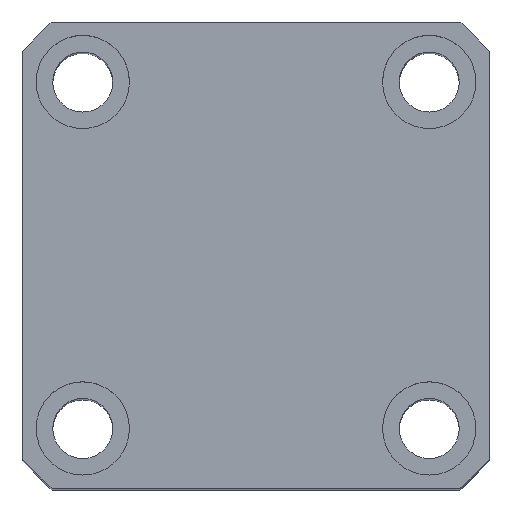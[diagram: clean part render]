
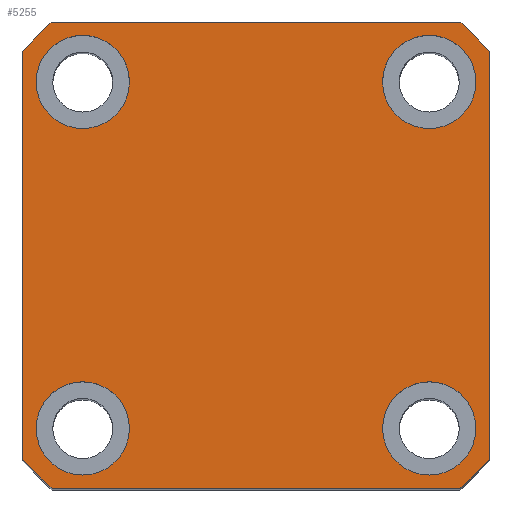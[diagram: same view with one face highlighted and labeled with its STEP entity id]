
A CAD part, top view. The second image highlights one B-rep face of the part: STEP entity #5255.
In plain terms, the highlighted planar face has unit normal (0, 0, 1).
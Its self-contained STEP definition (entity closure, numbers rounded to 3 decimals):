
#8 = DIRECTION ( 'NONE',  ( 0., 0., 1. ) ) ;
#94 = FACE_BOUND ( 'NONE', #9515, .T. ) ;
#296 = AXIS2_PLACEMENT_3D ( 'NONE', #3141, #8555, #3925 ) ;
#335 = CARTESIAN_POINT ( 'NONE',  ( 26., 26., 140. ) ) ;
#416 = ORIENTED_EDGE ( 'NONE', *, *, #7192, .F. ) ;
#511 = LINE ( 'NONE', #3499, #5945 ) ;
#540 = DIRECTION ( 'NONE',  ( 1., 0., 0. ) ) ;
#555 = CARTESIAN_POINT ( 'NONE',  ( 33., 26., 140. ) ) ;
#558 = VERTEX_POINT ( 'NONE', #3839 ) ;
#618 = AXIS2_PLACEMENT_3D ( 'NONE', #1310, #6709, #2084 ) ;
#638 = DIRECTION ( 'NONE',  ( 1., 0., 0. ) ) ;
#690 = DIRECTION ( 'NONE',  ( 0., 0., 1. ) ) ;
#814 = CIRCLE ( 'NONE', #296, 7. ) ;
#941 = ORIENTED_EDGE ( 'NONE', *, *, #3029, .T. ) ;
#1015 = ORIENTED_EDGE ( 'NONE', *, *, #8206, .F. ) ;
#1069 = CIRCLE ( 'NONE', #8575, 7. ) ;
#1107 = DIRECTION ( 'NONE',  ( 1., 0., 0. ) ) ;
#1215 = EDGE_CURVE ( 'NONE', #2295, #3341, #5874, .T. ) ;
#1239 = ORIENTED_EDGE ( 'NONE', *, *, #4479, .F. ) ;
#1246 = EDGE_LOOP ( 'NONE', ( #8150, #2121 ) ) ;
#1250 = ORIENTED_EDGE ( 'NONE', *, *, #8084, .F. ) ;
#1310 = CARTESIAN_POINT ( 'NONE',  ( -26., -26., 140. ) ) ;
#1371 = DIRECTION ( 'NONE',  ( 0., 0., 1. ) ) ;
#1515 = EDGE_CURVE ( 'NONE', #3341, #9955, #511, .T. ) ;
#1664 = FACE_BOUND ( 'NONE', #7203, .T. ) ;
#1712 = CARTESIAN_POINT ( 'NONE',  ( -19., -26., 140. ) ) ;
#1859 = ORIENTED_EDGE ( 'NONE', *, *, #5000, .F. ) ;
#2035 = VERTEX_POINT ( 'NONE', #4949 ) ;
#2050 = CARTESIAN_POINT ( 'NONE',  ( 33., -26., 140. ) ) ;
#2084 = DIRECTION ( 'NONE',  ( 1., 0., 0. ) ) ;
#2101 = ORIENTED_EDGE ( 'NONE', *, *, #2570, .T. ) ;
#2121 = ORIENTED_EDGE ( 'NONE', *, *, #4425, .F. ) ;
#2275 = DIRECTION ( 'NONE',  ( 0., -1., 0. ) ) ;
#2290 = CARTESIAN_POINT ( 'NONE',  ( 30.615, 35., 140. ) ) ;
#2295 = VERTEX_POINT ( 'NONE', #6681 ) ;
#2318 = VERTEX_POINT ( 'NONE', #555 ) ;
#2423 = AXIS2_PLACEMENT_3D ( 'NONE', #8428, #3799, #9208 ) ;
#2466 = AXIS2_PLACEMENT_3D ( 'NONE', #3617, #9022, #4407 ) ;
#2540 = CIRCLE ( 'NONE', #2423, 46.5 ) ;
#2570 = EDGE_CURVE ( 'NONE', #4442, #2035, #3859, .T. ) ;
#2657 = CIRCLE ( 'NONE', #3119, 46.5 ) ;
#2679 = VERTEX_POINT ( 'NONE', #3165 ) ;
#2727 = VERTEX_POINT ( 'NONE', #5552 ) ;
#2760 = CARTESIAN_POINT ( 'NONE',  ( 35., 35., 140. ) ) ;
#2806 = CARTESIAN_POINT ( 'NONE',  ( 26., -26., 140. ) ) ;
#2936 = EDGE_CURVE ( 'NONE', #2035, #7512, #2657, .T. ) ;
#3015 = CARTESIAN_POINT ( 'NONE',  ( -35., 35., 140. ) ) ;
#3029 = EDGE_CURVE ( 'NONE', #9955, #4442, #4250, .T. ) ;
#3032 = CARTESIAN_POINT ( 'NONE',  ( 30.615, -35., 140. ) ) ;
#3119 = AXIS2_PLACEMENT_3D ( 'NONE', #9824, #5188, #540 ) ;
#3141 = CARTESIAN_POINT ( 'NONE',  ( -26., -26., 140. ) ) ;
#3165 = CARTESIAN_POINT ( 'NONE',  ( -33., -26., 140. ) ) ;
#3341 = VERTEX_POINT ( 'NONE', #9980 ) ;
#3345 = EDGE_CURVE ( 'NONE', #6172, #2727, #2540, .T. ) ;
#3373 = AXIS2_PLACEMENT_3D ( 'NONE', #2806, #8221, #3594 ) ;
#3380 = EDGE_LOOP ( 'NONE', ( #2101, #6808, #6340, #8632, #9134, #3713, #7362, #941 ) ) ;
#3413 = EDGE_CURVE ( 'NONE', #2727, #2295, #8444, .T. ) ;
#3499 = CARTESIAN_POINT ( 'NONE',  ( -35., -35., 140. ) ) ;
#3551 = DIRECTION ( 'NONE',  ( 0., 0., 1. ) ) ;
#3594 = DIRECTION ( 'NONE',  ( 1., 0., 0. ) ) ;
#3617 = CARTESIAN_POINT ( 'NONE',  ( -26., 26., 140. ) ) ;
#3620 = VERTEX_POINT ( 'NONE', #1712 ) ;
#3696 = PLANE ( 'NONE',  #4666 ) ;
#3711 = FACE_BOUND ( 'NONE', #1246, .T. ) ;
#3713 = ORIENTED_EDGE ( 'NONE', *, *, #1215, .T. ) ;
#3799 = DIRECTION ( 'NONE',  ( 0., 0., 1. ) ) ;
#3839 = CARTESIAN_POINT ( 'NONE',  ( -19., 26., 140. ) ) ;
#3859 = LINE ( 'NONE', #2760, #8226 ) ;
#3925 = DIRECTION ( 'NONE',  ( 1., 0., 0. ) ) ;
#4142 = VERTEX_POINT ( 'NONE', #2050 ) ;
#4183 = AXIS2_PLACEMENT_3D ( 'NONE', #6011, #1371, #6780 ) ;
#4226 = FACE_BOUND ( 'NONE', #4846, .T. ) ;
#4250 = CIRCLE ( 'NONE', #4183, 46.5 ) ;
#4372 = VECTOR ( 'NONE', #2275, 1000. ) ;
#4407 = DIRECTION ( 'NONE',  ( 1., 0., 0. ) ) ;
#4425 = EDGE_CURVE ( 'NONE', #8214, #2318, #5426, .T. ) ;
#4442 = VERTEX_POINT ( 'NONE', #9271 ) ;
#4479 = EDGE_CURVE ( 'NONE', #2679, #3620, #814, .T. ) ;
#4594 = DIRECTION ( 'NONE',  ( 1., 0., 0. ) ) ;
#4650 = CARTESIAN_POINT ( 'NONE',  ( 26., 26., 140. ) ) ;
#4666 = AXIS2_PLACEMENT_3D ( 'NONE', #9973, #690, #6100 ) ;
#4671 = CIRCLE ( 'NONE', #2466, 7. ) ;
#4846 = EDGE_LOOP ( 'NONE', ( #7128, #1239 ) ) ;
#4949 = CARTESIAN_POINT ( 'NONE',  ( 35., 30.615, 140. ) ) ;
#5000 = EDGE_CURVE ( 'NONE', #5105, #4142, #1069, .T. ) ;
#5007 = CARTESIAN_POINT ( 'NONE',  ( -33., 26., 140. ) ) ;
#5105 = VERTEX_POINT ( 'NONE', #9016 ) ;
#5123 = EDGE_CURVE ( 'NONE', #3620, #2679, #6267, .T. ) ;
#5170 = AXIS2_PLACEMENT_3D ( 'NONE', #4650, #8, #5421 ) ;
#5188 = DIRECTION ( 'NONE',  ( 0., 0., 1. ) ) ;
#5255 = ADVANCED_FACE ( 'NONE', ( #4226, #1664, #3711, #94, #7583 ), #3696, .T. ) ;
#5279 = DIRECTION ( 'NONE',  ( 0., 0., 1. ) ) ;
#5364 = CARTESIAN_POINT ( 'NONE',  ( 0., 0., 140. ) ) ;
#5421 = DIRECTION ( 'NONE',  ( 1., 0., 0. ) ) ;
#5426 = CIRCLE ( 'NONE', #5170, 7. ) ;
#5552 = CARTESIAN_POINT ( 'NONE',  ( -35., 30.615, 140. ) ) ;
#5750 = DIRECTION ( 'NONE',  ( 0., 0., 1. ) ) ;
#5874 = CIRCLE ( 'NONE', #6004, 46.5 ) ;
#5945 = VECTOR ( 'NONE', #6569, 1000. ) ;
#6004 = AXIS2_PLACEMENT_3D ( 'NONE', #5364, #9207, #4594 ) ;
#6010 = CARTESIAN_POINT ( 'NONE',  ( 19., 26., 140. ) ) ;
#6011 = CARTESIAN_POINT ( 'NONE',  ( 0., 0., 140. ) ) ;
#6021 = EDGE_CURVE ( 'NONE', #7512, #6172, #9545, .T. ) ;
#6069 = CARTESIAN_POINT ( 'NONE',  ( -35., 35., 140. ) ) ;
#6100 = DIRECTION ( 'NONE',  ( 1., 0., 0. ) ) ;
#6172 = VERTEX_POINT ( 'NONE', #6227 ) ;
#6227 = CARTESIAN_POINT ( 'NONE',  ( -30.615, 35., 140. ) ) ;
#6228 = CIRCLE ( 'NONE', #6718, 7. ) ;
#6267 = CIRCLE ( 'NONE', #618, 7. ) ;
#6340 = ORIENTED_EDGE ( 'NONE', *, *, #6021, .T. ) ;
#6524 = VERTEX_POINT ( 'NONE', #5007 ) ;
#6569 = DIRECTION ( 'NONE',  ( 1., 0., 0. ) ) ;
#6681 = CARTESIAN_POINT ( 'NONE',  ( -35., -30.615, 140. ) ) ;
#6709 = DIRECTION ( 'NONE',  ( 0., 0., 1. ) ) ;
#6718 = AXIS2_PLACEMENT_3D ( 'NONE', #9914, #5279, #638 ) ;
#6780 = DIRECTION ( 'NONE',  ( 1., 0., 0. ) ) ;
#6808 = ORIENTED_EDGE ( 'NONE', *, *, #2936, .T. ) ;
#7128 = ORIENTED_EDGE ( 'NONE', *, *, #5123, .F. ) ;
#7192 = EDGE_CURVE ( 'NONE', #4142, #5105, #8289, .T. ) ;
#7203 = EDGE_LOOP ( 'NONE', ( #416, #1859 ) ) ;
#7362 = ORIENTED_EDGE ( 'NONE', *, *, #1515, .T. ) ;
#7405 = DIRECTION ( 'NONE',  ( 0., 1., 0. ) ) ;
#7512 = VERTEX_POINT ( 'NONE', #2290 ) ;
#7583 = FACE_OUTER_BOUND ( 'NONE', #3380, .T. ) ;
#8083 = AXIS2_PLACEMENT_3D ( 'NONE', #335, #5750, #1107 ) ;
#8084 = EDGE_CURVE ( 'NONE', #558, #6524, #4671, .T. ) ;
#8150 = ORIENTED_EDGE ( 'NONE', *, *, #8660, .F. ) ;
#8175 = CARTESIAN_POINT ( 'NONE',  ( 26., -26., 140. ) ) ;
#8206 = EDGE_CURVE ( 'NONE', #6524, #558, #6228, .T. ) ;
#8214 = VERTEX_POINT ( 'NONE', #6010 ) ;
#8221 = DIRECTION ( 'NONE',  ( 0., 0., 1. ) ) ;
#8226 = VECTOR ( 'NONE', #7405, 1000. ) ;
#8289 = CIRCLE ( 'NONE', #3373, 7. ) ;
#8428 = CARTESIAN_POINT ( 'NONE',  ( 0., 0., 140. ) ) ;
#8444 = LINE ( 'NONE', #3015, #4372 ) ;
#8555 = DIRECTION ( 'NONE',  ( 0., 0., 1. ) ) ;
#8575 = AXIS2_PLACEMENT_3D ( 'NONE', #8175, #3551, #8959 ) ;
#8632 = ORIENTED_EDGE ( 'NONE', *, *, #3345, .T. ) ;
#8660 = EDGE_CURVE ( 'NONE', #2318, #8214, #9005, .T. ) ;
#8959 = DIRECTION ( 'NONE',  ( 1., 0., 0. ) ) ;
#9005 = CIRCLE ( 'NONE', #8083, 7. ) ;
#9016 = CARTESIAN_POINT ( 'NONE',  ( 19., -26., 140. ) ) ;
#9022 = DIRECTION ( 'NONE',  ( 0., 0., 1. ) ) ;
#9038 = VECTOR ( 'NONE', #9941, 1000. ) ;
#9134 = ORIENTED_EDGE ( 'NONE', *, *, #3413, .T. ) ;
#9207 = DIRECTION ( 'NONE',  ( 0., 0., 1. ) ) ;
#9208 = DIRECTION ( 'NONE',  ( 1., 0., 0. ) ) ;
#9271 = CARTESIAN_POINT ( 'NONE',  ( 35., -30.615, 140. ) ) ;
#9515 = EDGE_LOOP ( 'NONE', ( #1250, #1015 ) ) ;
#9545 = LINE ( 'NONE', #6069, #9038 ) ;
#9824 = CARTESIAN_POINT ( 'NONE',  ( 0., 0., 140. ) ) ;
#9914 = CARTESIAN_POINT ( 'NONE',  ( -26., 26., 140. ) ) ;
#9941 = DIRECTION ( 'NONE',  ( -1., 0., 0. ) ) ;
#9955 = VERTEX_POINT ( 'NONE', #3032 ) ;
#9973 = CARTESIAN_POINT ( 'NONE',  ( 0., 0., 140. ) ) ;
#9980 = CARTESIAN_POINT ( 'NONE',  ( -30.615, -35., 140. ) ) ;
